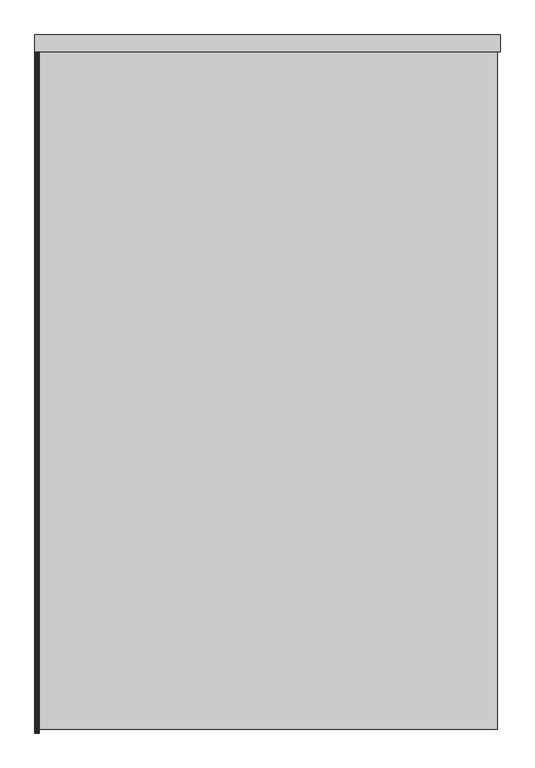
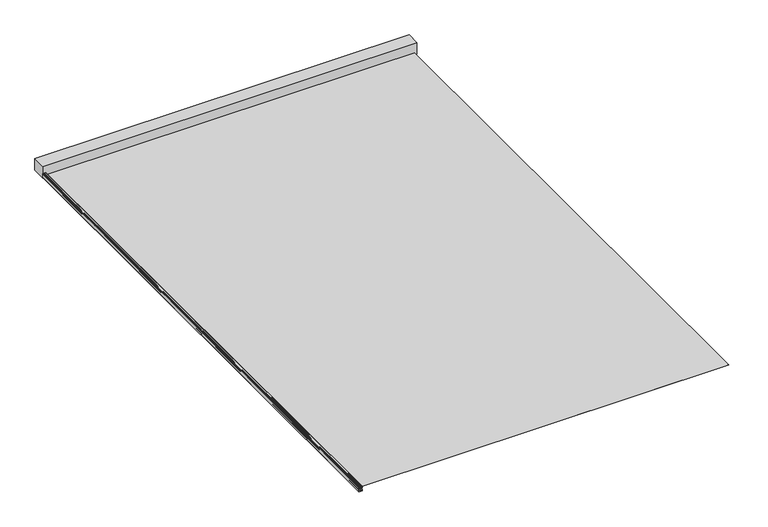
"""IFC4 building model written with IfcOpenShell, lengths in millimetres: proxy geometry, ZIP135 - 4 meter bred : ZIP135 - 4 meter bred."""

import ifcopenshell
import ifcopenshell.guid

model = None  # the IFC model being written
_history = None  # IfcOwnerHistory: only IFC2X3 demands one
_inside = {}  # id of a spatial element -> (the spatial element, [elements in it])
_under = {}  # id of a project, library or spatial element -> (it, [spatial elements below it])
_declared = {}  # id of a project -> (the project, [libraries it declares])
_typed = {}  # id of a type object -> (the type object, [elements of that type])
_made_of = {}  # id of a material, layer set ... -> (it, [elements and type objects made of it])


def new_model(schema):
    """Start an empty IFC model of exactly this schema.

    Asked for "IFC4X3", IfcOpenShell would pick the latest addendum, in which some entities
    have other attributes; the version numbers below select the first issue.
    IFC2X3 requires an IfcOwnerHistory on every rooted entity: one is made here for all.
    """
    global model, _history
    if schema == "IFC4X3":
        model = ifcopenshell.file(schema_version=(4, 3, 0, 0))
    else:
        model = ifcopenshell.file(schema=schema)
    _inside.clear()
    _under.clear()
    _declared.clear()
    _typed.clear()
    _made_of.clear()
    _history = None
    if model.schema == "IFC2X3":
        org = make("IfcOrganization", Name="unknown")
        user = make(
            "IfcPersonAndOrganization",
            ThePerson=make("IfcPerson", FamilyName="unknown"),
            TheOrganization=org,
        )
        app = make(
            "IfcApplication",
            ApplicationDeveloper=org,
            Version="unknown",
            ApplicationFullName="unknown",
            ApplicationIdentifier="unknown",
        )
        _history = make(
            "IfcOwnerHistory",
            OwningUser=user,
            OwningApplication=app,
            ChangeAction="ADDED",
            CreationDate=0,
        )
    return model


def make(cls, **values):
    """One entity of the class cls with the attributes given. An attribute that is None is left unset."""
    return model.create_entity(
        cls, **{name: value for name, value in values.items() if value is not None}
    )


def rooted(cls, **values):
    """An entity with a GlobalId (a new one), such as an element, a storey or a relation."""
    return make(cls, GlobalId=ifcopenshell.guid.new(), OwnerHistory=_history, **values)


def si_unit(unit_type, name, prefix=None):
    """IfcSIUnit, for example si_unit("LENGTHUNIT", "METRE", prefix="MILLI")."""
    return make("IfcSIUnit", UnitType=unit_type, Prefix=prefix, Name=name)


def assignment(units):
    """IfcUnitAssignment: the units of a project."""
    return None if units is None else make("IfcUnitAssignment", Units=units)


def point(xyz):
    """IfcCartesianPoint."""
    return None if xyz is None else make("IfcCartesianPoint", Coordinates=xyz)


def direction(xyz):
    """IfcDirection."""
    return None if xyz is None else make("IfcDirection", DirectionRatios=xyz)


def frame(location, z_axis=None, x_axis=None):
    """IfcAxis2Placement3D, a coordinate frame: its origin and axes. An axis left out is left unset."""
    return make(
        "IfcAxis2Placement3D",
        Location=point(location),
        Axis=direction(z_axis),
        RefDirection=direction(x_axis),
    )


def origin():
    """The frame at (0, 0, 0) with its axes left unset."""
    return frame((0.0, 0.0, 0.0))


def origin_with_axes():
    """The frame at (0, 0, 0) with the z axis (0, 0, 1) and the x axis (1, 0, 0) written out."""
    return frame((0.0, 0.0, 0.0), z_axis=(0.0, 0.0, 1.0), x_axis=(1.0, 0.0, 0.0))


def place(relative_to, where):
    """IfcLocalPlacement: puts the frame where relative to a parent placement (None: the world)."""
    return make(
        "IfcLocalPlacement", PlacementRelTo=relative_to, RelativePlacement=where
    )


def context(
    kind, dimensions, precision=None, world=None, true_north=None, identifier=None
):
    """IfcGeometricRepresentationContext, for example the 3D "Model" context."""
    return make(
        "IfcGeometricRepresentationContext",
        ContextIdentifier=identifier,
        ContextType=kind,
        CoordinateSpaceDimension=dimensions,
        Precision=precision,
        WorldCoordinateSystem=world,
        TrueNorth=true_north,
    )


def project(units=None, contexts=None):
    """IfcProject with its units and contexts."""
    return rooted(
        "IfcProject",
        Name="project",
        RepresentationContexts=contexts,
        UnitsInContext=assignment(units),
    )


def spatial(cls, under=None, at=None, **own):
    """A site, building, storey or space (cls), placed at a placement, below another one or the project."""
    s = rooted(cls, ObjectPlacement=at, **own)
    if under is not None:
        _under.setdefault(under.id(), (under, []))[1].append(s)
    return s


def polyline(points):
    """IfcPolyline through the points."""
    return make("IfcPolyline", Points=[point(p) for p in points])


def circle_curve(where, radius):
    """IfcCircle in the frame where."""
    return make("IfcCircle", Position=where, Radius=radius)


def outline(outer, holes=None, kind="AREA"):
    """IfcArbitraryClosedProfileDef: a profile drawn as a closed curve; with holes, ...WithVoids."""
    if holes is None:
        return make("IfcArbitraryClosedProfileDef", ProfileType=kind, OuterCurve=outer)
    return make(
        "IfcArbitraryProfileDefWithVoids",
        ProfileType=kind,
        OuterCurve=outer,
        InnerCurves=holes,
    )


def extrude(swept, where, along, depth):
    """IfcExtrudedAreaSolid: the profile swept, set in the frame where, extruded along a direction by depth."""
    return make(
        "IfcExtrudedAreaSolid",
        SweptArea=swept,
        Position=where,
        ExtrudedDirection=direction(along),
        Depth=depth,
    )


def shape(context_of_items, identifier, shape_type, items):
    """IfcShapeRepresentation: the items that make up one representation, for example the "Body"."""
    return make(
        "IfcShapeRepresentation",
        ContextOfItems=context_of_items,
        RepresentationIdentifier=identifier,
        RepresentationType=shape_type,
        Items=items,
    )


def source(mapping_origin, context_of_items, identifier, shape_type, items):
    """IfcRepresentationMap: a shape defined once, which mapped items show again and again."""
    return make(
        "IfcRepresentationMap",
        MappingOrigin=mapping_origin,
        MappedRepresentation=shape(context_of_items, identifier, shape_type, items),
    )


def transform(
    local_origin,
    x_axis=None,
    y_axis=None,
    z_axis=None,
    scale=None,
    scale2=None,
    scale3=None,
    uniform=True,
):
    """IfcCartesianTransformationOperator3D, or its non-uniform kind. x_axis, y_axis, z_axis: its Axis1, 2, 3."""
    if uniform:
        return make(
            "IfcCartesianTransformationOperator3D",
            Axis1=direction(x_axis),
            Axis2=direction(y_axis),
            LocalOrigin=point(local_origin),
            Scale=scale,
            Axis3=direction(z_axis),
        )
    return make(
        "IfcCartesianTransformationOperator3DnonUniform",
        Axis1=direction(x_axis),
        Axis2=direction(y_axis),
        LocalOrigin=point(local_origin),
        Scale=scale,
        Axis3=direction(z_axis),
        Scale2=scale2,
        Scale3=scale3,
    )


def mapped(mapping_source, mapping_target):
    """IfcMappedItem: shows the shape of a source again, moved by a transform."""
    return make(
        "IfcMappedItem", MappingSource=mapping_source, MappingTarget=mapping_target
    )


def made_of(thing, what):
    """Note that an element or type object is made of a material, layer set ...; save() writes the relation."""
    if what is not None:
        _made_of.setdefault(what.id(), (what, []))[1].append(thing)
    return thing


def element(
    cls,
    number,
    at=None,
    inside=None,
    cuts=None,
    type_object=None,
    material=None,
    context=None,
    identifier="Body",
    shape_type=None,
    held_by="IfcProductDefinitionShape",
    body=None,
    shapes=None,
    **own,
):
    """One element of the class cls, such as IfcWall. Its Tag is "e" and its number.

    at: its placement. inside: the storey or other place that contains it. cuts: it is an
    opening in that element (IfcRelVoidsElement). A single representation is given by context,
    identifier, shape_type and body (its items); several are given by shapes. held_by: the class
    of the entity that holds the representations. save() writes the other relations.
    """
    e = rooted(cls, Tag="e%d" % number, ObjectPlacement=at, **own)
    if body is not None:
        shapes = [shape(context, identifier, shape_type, body)]
    if shapes is not None:
        e.Representation = make(held_by, Representations=shapes)
    if inside is not None:
        _inside.setdefault(inside.id(), (inside, []))[1].append(e)
    if cuts is not None:
        rooted(
            "IfcRelVoidsElement", RelatingBuildingElement=cuts, RelatedOpeningElement=e
        )
    if type_object is not None:
        _typed.setdefault(type_object.id(), (type_object, []))[1].append(e)
    return made_of(e, material)


def aggregate(whole, parts):
    """IfcRelAggregates: a whole, such as a stair, and the parts it consists of."""
    return rooted("IfcRelAggregates", RelatingObject=whole, RelatedObjects=parts)


def save(model, path):
    """Write the relations noted so far, then the file.

    IfcRelAggregates (storeys below a building ...), IfcRelContainedInSpatialStructure (elements
    in a storey), IfcRelDefinesByType, IfcRelAssociatesMaterial and IfcRelDeclares: one each for
    every whole, place, type object, material and project.
    """
    for whole, parts in _under.values():
        aggregate(whole, parts)
    for where, things in _inside.values():
        rooted(
            "IfcRelContainedInSpatialStructure",
            RelatedElements=things,
            RelatingStructure=where,
        )
    for kind, things in _typed.values():
        rooted("IfcRelDefinesByType", RelatedObjects=things, RelatingType=kind)
    for what, things in _made_of.values():
        rooted("IfcRelAssociatesMaterial", RelatedObjects=things, RelatingMaterial=what)
    for by, libraries in _declared.values():
        rooted("IfcRelDeclares", RelatingContext=by, RelatedDefinitions=libraries)
    model.write(path)


def plane_surface(at):
    """IfcPlane: the flat surface through the origin of the frame at, square to its z axis."""
    return make("IfcPlane", Position=at)


def cylinder_surface(at, radius):
    """IfcCylindricalSurface: all points at the distance radius from the z axis of the frame at."""
    return make("IfcCylindricalSurface", Position=at, Radius=radius)


def revolved_surface(curve, axis_point, axis_direction):
    """IfcSurfaceOfRevolution: the curve turned about the line through axis_point along axis_direction."""
    return make(
        "IfcSurfaceOfRevolution",
        SweptCurve=make("IfcArbitraryOpenProfileDef", ProfileType="CURVE", Curve=curve),
        AxisPosition=make("IfcAxis1Placement", Location=point(axis_point), Axis=direction(axis_direction)),
    )


def advanced_brep(points, edges, surfaces, faces):
    """IfcAdvancedBrep: a solid bounded by faces that lie on surfaces and meet in shared edges.

    An edge is (start, end): straight between two places in points (the first is 0);
    or (start, end, curve); or (start, end, curve, False) where it runs against its curve.
    A face is (place in surfaces, loops), or (place, loops, False) where it looks against
    its surface's normal. A loop lists edges by number (the first is 1), with a minus sign
    where the edge is run from its end to its start. The first loop is the outer one.
    """
    corners = [point(p) for p in points]
    vertices = [make("IfcVertexPoint", VertexGeometry=c) for c in corners]
    made = []
    for start, end, *more in edges:
        made.append(
            make(
                "IfcEdgeCurve",
                EdgeStart=vertices[start],
                EdgeEnd=vertices[end],
                EdgeGeometry=more[0] if more else make("IfcPolyline", Points=[corners[start], corners[end]]),
                SameSense=more[1] if len(more) > 1 else True,
            )
        )
    hull = []
    for where, loops, *sense in faces:
        bounds = []
        for j, loop in enumerate(loops):
            ring = [make("IfcOrientedEdge", EdgeElement=made[abs(k) - 1], Orientation=k > 0) for k in loop]
            bounds.append(
                make(
                    "IfcFaceOuterBound" if j == 0 else "IfcFaceBound",
                    Bound=make("IfcEdgeLoop", EdgeList=ring),
                    Orientation=True,
                )
            )
        hull.append(make("IfcAdvancedFace", Bounds=bounds, FaceSurface=surfaces[where], SameSense=sense[0] if sense else True))
    return make("IfcAdvancedBrep", Outer=make("IfcClosedShell", CfsFaces=hull))


def generic_models_0fbfa0ec(model_context):
    return source(origin(), model_context, "Body", "SolidModel", [
        advanced_brep(
        [(-1972.6, 2.5, 31.4678714), (-1973.0769696, 2.5, 30.8178714), (-1972.6, 2.5, 30.1678714), (-1964.1023957, 2.5, 30.1678714), (-1963.1024072, 2.5, 31.1726628), (-1963.7529205, 2.5, 46.7031883), (-1965.6666067, 2.5, 48.5438844), (-1998.8706367, 2.5, 48.0351336), (-1999.8, 2.5, 47.0376315), (-1999.8, 2.5, 45.9678714), (-1998.5, 2.5, 45.3433716), (-1998.5, 2.5, 46.7579933), (-1980.6187174, 2.5, 47.4700414), (-1979.1649596, 2.5, 46.5616328), (-1978.4, 2.5, 46.9856568), (-1977.9003699, 2.5, 47.4844201), (-1971.3890908, 2.5, 47.418256), (-1968.8, 2.5, 46.5762226), (-1968.8, 2.5, 43.1361571), (-1968.8, 2.5, 39.6678714), (-1969.3, 2.5, 39.1678714), (-1978.9, 2.5, 39.1678714), (-1979.3769696, 2.5, 38.5178714), (-1978.9, 2.5, 37.8678714), (-1968.8, 2.5, 37.8678714), (-1968.8, 2.5, 31.9678714), (-1969.3, 2.5, 31.4678714), (-1972.6, 5857.0, 31.4678714), (-1969.3, 5857.0, 31.4678714), (-1968.8, 5857.0, 31.9678714), (-1968.8, 5857.0, 37.8678714), (-1978.9, 5857.0, 37.8678714), (-1979.3769696, 5857.0, 38.5178714), (-1978.9, 5857.0, 39.1678714), (-1969.3, 5857.0, 39.1678714), (-1968.8, 5857.0, 39.6678714), (-1968.8, 5857.0, 43.1361571), (-1968.8, 5857.0, 46.5762226), (-1971.3890908, 5857.0, 47.418256), (-1977.9003699, 5857.0, 47.4844201), (-1978.3999988, 5857.0, 46.9856568), (-1979.1649596, 5857.0, 46.5616328), (-1980.6187174, 5857.0, 47.4700414), (-1998.5, 5857.0, 46.7579933), (-1998.5, 5857.0, 45.3433716), (-1999.8, 5857.0, 45.9678714), (-1999.8, 5857.0, 47.0376315), (-1998.8706367, 5857.0, 48.0351336), (-1965.6666067, 5857.0, 48.5438844), (-1963.7529205, 5857.0, 46.7031883), (-1963.1024072, 5857.0, 31.1726628), (-1964.1023957, 5857.0, 30.1678714), (-1972.6, 5857.0, 30.1678714), (-1973.0769696, 5857.0, 30.8178714)],
        [
            (0, 1, circle_curve(frame((-1972.6, 2.5, 30.9678714), z_axis=(0.0, -1.0, 0.0), x_axis=(1.0, 0.0, 0.0)), 0.5)),
            (1, 2, circle_curve(frame((-1972.6, 2.5, 30.6678714), z_axis=(0.0, -1.0, 0.0), x_axis=(1.0, 0.0, 0.0)), 0.5)),
            (2, 3),
            (3, 4, circle_curve(frame((-1964.1023957, 2.5, 31.1678714), z_axis=(0.0, -1.0, 0.0), x_axis=(1.0, 0.0, 0.0)), 1.0)),
            (4, 5, circle_curve(frame((-2172.80625, 2.5, 30.1678714), z_axis=(0.0, -1.0, 0.0), x_axis=(1.0, 0.0, 0.0)), 209.70625)),
            (5, 6, circle_curve(frame((-1965.7466935, 2.5, 46.5454885), z_axis=(0.0, -1.0, 0.0), x_axis=(1.0, 0.0, 0.0)), 2.0)),
            (6, 7, circle_curve(frame((-1977.6796188, 2.5, -251.2154984), z_axis=(0.0, -1.0, 0.0), x_axis=(1.0, 0.0, 0.0)), 300.0)),
            (7, 8, circle_curve(frame((-1998.8, 2.5, 47.0376315), z_axis=(0.0, -1.0, 0.0), x_axis=(1.0, 0.0, 0.0)), 1.0)),
            (8, 9),
            (9, 10, circle_curve(frame((-1999.0, 2.5, 45.9678714), z_axis=(0.0, -1.0, 0.0), x_axis=(1.0, 0.0, 0.0)), 0.8)),
            (10, 11),
            (11, 12, circle_curve(frame((-1977.6796188, 2.5, -251.2154984), z_axis=(0.0, 1.0, 0.0), x_axis=(1.0, 0.0, 0.0)), 298.7)),
            (12, 13),
            (13, 14, circle_curve(frame((-1978.9, 2.5, 46.9856568), z_axis=(0.0, -1.0, 0.0), x_axis=(1.0, 0.0, 0.0)), 0.5)),
            (14, 15, circle_curve(frame((-1977.9000004, 2.5, 46.9844202), z_axis=(0.0, 1.0, 0.0), x_axis=(1.0, 0.0, 0.0)), 0.5)),
            (15, 16, circle_curve(frame((-1977.6796188, 2.5, -251.2154984), z_axis=(0.0, 1.0, 0.0), x_axis=(1.0, 0.0, 0.0)), 298.7)),
            (16, 17, circle_curve(frame((-1969.6, 2.5, 48.5178714), z_axis=(0.0, -1.0, 0.0), x_axis=(1.0, 0.0, 0.0)), 2.1)),
            (17, 18),
            (18, 19),
            (19, 20, circle_curve(frame((-1969.3, 2.5, 39.6678714), z_axis=(0.0, 1.0, 0.0), x_axis=(1.0, 0.0, 0.0)), 0.5)),
            (20, 21),
            (21, 22, circle_curve(frame((-1978.9, 2.5, 38.6678714), z_axis=(0.0, -1.0, 0.0), x_axis=(1.0, 0.0, 0.0)), 0.5)),
            (22, 23, circle_curve(frame((-1978.9, 2.5, 38.3678714), z_axis=(0.0, -1.0, 0.0), x_axis=(1.0, 0.0, 0.0)), 0.5)),
            (23, 24),
            (24, 25),
            (25, 26, circle_curve(frame((-1969.3, 2.5, 31.9678714), z_axis=(0.0, 1.0, 0.0), x_axis=(1.0, 0.0, 0.0)), 0.5)),
            (26, 0),
            (27, 28),
            (28, 29, circle_curve(frame((-1969.3, 5857.0, 31.9678714), z_axis=(0.0, -1.0, 0.0), x_axis=(1.0, 0.0, 0.0)), 0.5)),
            (29, 30),
            (30, 31),
            (31, 32, circle_curve(frame((-1978.9, 5857.0, 38.3678714), z_axis=(0.0, 1.0, 0.0), x_axis=(1.0, 0.0, 0.0)), 0.5)),
            (32, 33, circle_curve(frame((-1978.9, 5857.0, 38.6678714), z_axis=(0.0, 1.0, 0.0), x_axis=(1.0, 0.0, 0.0)), 0.5)),
            (33, 34),
            (34, 35, circle_curve(frame((-1969.3, 5857.0, 39.6678714), z_axis=(0.0, -1.0, 0.0), x_axis=(1.0, 0.0, 0.0)), 0.5)),
            (35, 36),
            (36, 37),
            (37, 38, circle_curve(frame((-1969.6, 5857.0, 48.5178714), z_axis=(0.0, 1.0, 0.0), x_axis=(1.0, 0.0, 0.0)), 2.1)),
            (38, 39, circle_curve(frame((-1977.6796188, 5857.0, -251.2154984), z_axis=(0.0, -1.0, 0.0), x_axis=(1.0, 0.0, 0.0)), 298.7)),
            (39, 40, circle_curve(frame((-1977.9000004, 5857.0, 46.9844202), z_axis=(0.0, -1.0, 0.0), x_axis=(1.0, 0.0, 0.0)), 0.5)),
            (40, 41, circle_curve(frame((-1978.9, 5857.0, 46.9856568), z_axis=(0.0, 1.0, 0.0), x_axis=(1.0, 0.0, 0.0)), 0.5)),
            (41, 42),
            (42, 43, circle_curve(frame((-1977.6796188, 5857.0, -251.2154984), z_axis=(0.0, -1.0, 0.0), x_axis=(1.0, 0.0, 0.0)), 298.7)),
            (43, 44),
            (44, 45, circle_curve(frame((-1999.0, 5857.0, 45.9678714), z_axis=(0.0, 1.0, 0.0), x_axis=(1.0, 0.0, 0.0)), 0.8)),
            (45, 46),
            (46, 47, circle_curve(frame((-1998.8, 5857.0, 47.0376315), z_axis=(0.0, 1.0, 0.0), x_axis=(1.0, 0.0, 0.0)), 1.0)),
            (47, 48, circle_curve(frame((-1977.6796188, 5857.0, -251.2154984), z_axis=(0.0, 1.0, 0.0), x_axis=(1.0, 0.0, 0.0)), 300.0)),
            (48, 49, circle_curve(frame((-1965.7466935, 5857.0, 46.5454885), z_axis=(0.0, 1.0, 0.0), x_axis=(1.0, 0.0, 0.0)), 2.0)),
            (49, 50, circle_curve(frame((-2172.80625, 5857.0, 30.1678714), z_axis=(0.0, 1.0, 0.0), x_axis=(1.0, 0.0, 0.0)), 209.70625)),
            (50, 51, circle_curve(frame((-1964.1023957, 5857.0, 31.1678714), z_axis=(0.0, 1.0, 0.0), x_axis=(1.0, 0.0, 0.0)), 1.0)),
            (51, 52),
            (52, 53, circle_curve(frame((-1972.6, 5857.0, 30.6678714), z_axis=(0.0, 1.0, 0.0), x_axis=(1.0, 0.0, 0.0)), 0.5)),
            (53, 27, circle_curve(frame((-1972.6, 5857.0, 30.9678714), z_axis=(0.0, 1.0, 0.0), x_axis=(1.0, 0.0, 0.0)), 0.5)),
            (26, 28),
            (27, 0),
            (25, 29),
            (24, 30),
            (23, 31),
            (22, 32),
            (21, 33),
            (20, 34),
            (19, 35),
            (18, 36),
            (17, 37),
            (16, 38),
            (15, 39),
            (14, 40),
            (13, 41),
            (12, 42),
            (11, 43),
            (10, 44),
            (9, 45),
            (8, 46),
            (7, 47),
            (6, 48),
            (5, 49),
            (4, 50),
            (3, 51),
            (2, 52),
            (1, 53),
        ],
        [
            plane_surface(frame((-1972.1, 2.5, 30.9678714), z_axis=(0.0, -1.0, 0.0), x_axis=(0.0, 0.0, 1.0))),
            plane_surface(frame((-1972.1, 5857.0, 30.9678714), z_axis=(0.0, 1.0, 0.0), x_axis=(0.0, 0.0, -1.0))),
            plane_surface(frame((-1969.3, 2.5, 31.4678714), z_axis=(0.0, 0.0, 1.0), x_axis=(0.0, 1.0, 0.0))),
            revolved_surface(polyline([(-1968.8, 5857.0, 31.9678714), (-1968.8, 2.5, 31.9678714)]), (-1969.3, 5857.0, 31.9678714), (0.0, 1.0, 0.0)),
            plane_surface(frame((-1968.8, 2.5, 37.8678714), z_axis=(-1.0, 0.0, 0.0), x_axis=(0.0, 1.0, 0.0))),
            plane_surface(frame((-1978.9, 2.5, 37.8678714), z_axis=(0.0, 0.0, -1.0), x_axis=(0.0, 1.0, 0.0))),
            cylinder_surface(frame((-1978.9, 5857.0, 38.3678714), z_axis=(0.0, -1.0, 0.0), x_axis=(1.0, 0.0, 0.0)), 0.5),
            cylinder_surface(frame((-1978.9, 5857.0, 38.6678714), z_axis=(0.0, -1.0, 0.0), x_axis=(1.0, 0.0, 0.0)), 0.5),
            plane_surface(frame((-1969.3, 2.5, 39.1678714), z_axis=(0.0, 0.0, 1.0), x_axis=(0.0, 1.0, 0.0))),
            revolved_surface(polyline([(-1968.8, 5857.0, 39.6678714), (-1968.8, 2.5, 39.6678714)]), (-1969.3, 5857.0, 39.6678714), (0.0, 1.0, 0.0)),
            plane_surface(frame((-1968.8, 2.5, 43.1361571), z_axis=(-1.0, 0.0, 0.0), x_axis=(0.0, 1.0, 0.0))),
            plane_surface(frame((-1968.8, 2.5, 46.5762226), z_axis=(-1.0, 0.0, 0.0), x_axis=(0.0, 1.0, 0.0))),
            cylinder_surface(frame((-1969.6, 5857.0, 48.5178714), z_axis=(0.0, -1.0, 0.0), x_axis=(1.0, 0.0, 0.0)), 2.1),
            revolved_surface(polyline([(-1678.9796188, 5857.0, -251.2154984), (-1678.9796188, 2.5, -251.2154984)]), (-1977.6796188, 5857.0, -251.2154984), (0.0, 1.0, 0.0)),
            revolved_surface(polyline([(-1977.4000004, 5857.0, 46.9844202), (-1977.4000004, 2.5, 46.9844202)]), (-1977.9000004, 5857.0, 46.9844202), (0.0, 1.0, 0.0)),
            cylinder_surface(frame((-1978.9, 5857.0, 46.9856568), z_axis=(0.0, -1.0, 0.0), x_axis=(1.0, 0.0, 0.0)), 0.5),
            plane_surface(frame((-1980.6187174, 2.5, 47.4700414), z_axis=(-0.529919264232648, 0.0, -0.848048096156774), x_axis=(0.0, 1.0, 0.0))),
            plane_surface(frame((-1998.5, 2.5, 45.3433716), z_axis=(1.0, 0.0, 0.0), x_axis=(0.0, 1.0, 0.0))),
            cylinder_surface(frame((-1999.0, 5857.0, 45.9678714), z_axis=(0.0, -1.0, 0.0), x_axis=(1.0, 0.0, 0.0)), 0.8),
            plane_surface(frame((-1999.8, 2.5, 47.0376315), z_axis=(-1.0, 0.0, 0.0), x_axis=(0.0, 1.0, 0.0))),
            cylinder_surface(frame((-1998.8, 5857.0, 47.0376315), z_axis=(0.0, -1.0, 0.0), x_axis=(1.0, 0.0, 0.0)), 1.0),
            cylinder_surface(frame((-1977.6796188, 5857.0, -251.2154984), z_axis=(0.0, -1.0, 0.0), x_axis=(1.0, 0.0, 0.0)), 300.0),
            cylinder_surface(frame((-1965.7466935, 5857.0, 46.5454885), z_axis=(0.0, -1.0, 0.0), x_axis=(1.0, 0.0, 0.0)), 2.0),
            cylinder_surface(frame((-2172.80625, 5857.0, 30.1678714), z_axis=(0.0, -1.0, 0.0), x_axis=(1.0, 0.0, 0.0)), 209.70625),
            cylinder_surface(frame((-1964.1023957, 5857.0, 31.1678714), z_axis=(0.0, -1.0, 0.0), x_axis=(1.0, 0.0, 0.0)), 1.0),
            plane_surface(frame((-1972.6, 2.5, 30.1678714), z_axis=(0.0, 0.0, -1.0), x_axis=(0.0, 1.0, 0.0))),
            cylinder_surface(frame((-1972.6, 5857.0, 30.6678714), z_axis=(0.0, -1.0, 0.0), x_axis=(1.0, 0.0, 0.0)), 0.5),
            cylinder_surface(frame((-1972.6, 5857.0, 30.9678714), z_axis=(0.0, -1.0, 0.0), x_axis=(1.0, 0.0, 0.0)), 0.5),
        ],
        [
            (0, [[1, 2, 3, 4, 5, 6, 7, 8, 9, 10, 11, 12, 13, 14, 15, 16, 17, 18, 19, 20, 21, 22, 23, 24, 25, 26, 27]]),
            (1, [[28, 29, 30, 31, 32, 33, 34, 35, 36, 37, 38, 39, 40, 41, 42, 43, 44, 45, 46, 47, 48, 49, 50, 51, 52, 53, 54]]),
            (2, [[-27, 55, -28, 56]]),
            (3, [[-26, 57, -29, -55]]),
            (4, [[-25, 58, -30, -57]]),
            (5, [[-24, 59, -31, -58]]),
            (6, [[-23, 60, -32, -59]]),
            (7, [[-22, 61, -33, -60]]),
            (8, [[-21, 62, -34, -61]]),
            (9, [[-20, 63, -35, -62]]),
            (10, [[-19, 64, -36, -63]]),
            (11, [[-18, 65, -37, -64]]),
            (12, [[-17, 66, -38, -65]]),
            (13, [[-16, 67, -39, -66]]),
            (14, [[-15, 68, -40, -67]]),
            (15, [[-14, 69, -41, -68]]),
            (16, [[-13, 70, -42, -69]]),
            (13, [[-12, 71, -43, -70]]),
            (17, [[-11, 72, -44, -71]]),
            (18, [[-10, 73, -45, -72]]),
            (19, [[-9, 74, -46, -73]]),
            (20, [[-8, 75, -47, -74]]),
            (21, [[-7, 76, -48, -75]]),
            (22, [[-6, 77, -49, -76]]),
            (23, [[-5, 78, -50, -77]]),
            (24, [[-4, 79, -51, -78]]),
            (25, [[-3, 80, -52, -79]]),
            (26, [[-2, 81, -53, -80]]),
            (27, [[-1, -56, -54, -81]]),
        ],
    ),
        advanced_brep(
        [(-1962.8295553, 2.5, 13.8913237), (-1963.8, 2.5, 14.65), (-1972.3, 2.5, 14.65), (-1972.7769696, 2.5, 14.0), (-1972.3, 2.5, 13.35), (-1969.0, 2.5, 13.35), (-1968.5, 2.5, 12.85), (-1968.5, 2.5, 8.2), (-1969.5, 2.5, 7.2), (-1983.8, 2.5, 7.2), (-1983.8, 2.5, 20.6143806), (-1983.8, 2.5, 36.6), (-1982.8, 2.5, 37.6), (-1980.7, 2.5, 37.6), (-1979.724617, 2.5, 38.3794826), (-1979.724617, 2.5, 39.3), (-1969.3, 2.5, 39.3), (-1968.8101021, 2.5, 40.5), (-1978.6, 2.5, 40.5), (-1979.6, 2.5, 41.5), (-1979.6, 2.5, 43.7), (-1978.6, 2.5, 44.7), (-1969.3, 2.5, 44.7), (-1968.8101021, 2.5, 45.9), (-1979.1, 2.5, 45.9), (-1981.077761, 2.5, 43.6025751), (-1981.803125, 2.5, 43.0671573), (-1984.8151163, 2.5, 42.5032419), (-1984.0348837, 2.5, 41.727847), (-1981.7801617, 2.5, 41.742787), (-1981.1730561, 2.5, 41.1478729), (-1981.1622989, 2.5, 40.0872673), (-1981.757213, 2.5, 39.4801617), (-1984.0348837, 2.5, 39.472153), (-1984.479504, 2.5, 38.5371628), (-1985.2, 2.5, 37.0), (-1985.2, 2.5, 29.1), (-1990.3934914, 2.5, 29.1), (-1998.1, 2.5, 29.1), (-1998.6, 2.5, 29.6), (-1998.6, 2.5, 42.35), (-1998.1, 2.5, 42.85), (-1996.5, 2.5, 42.85), (-1996.0, 2.5, 43.35), (-1996.0, 2.5, 44.35), (-1997.6, 2.5, 46.75), (-1997.6, 2.5, 45.05), (-2000.0, 2.5, 45.05), (-2000.0, 2.5, 2.0), (-1998.0, 2.5, 0.0), (-1991.3611718, 2.5, 0.0), (-1980.55, 2.5, 0.0), (-1980.55, 2.5, 1.5), (-1983.6, 2.5, 1.5), (-1984.1, 2.5, 2.0), (-1984.1, 2.5, 4.8), (-1983.1, 2.5, 5.8), (-1969.5, 2.5, 5.8), (-1968.5, 2.5, 4.8), (-1968.5, 2.5, 1.5), (-1972.05, 2.5, 1.5), (-1972.05, 2.5, 0.0), (-1965.3628876, 2.5, 0.0), (-1963.3764512, 2.5, 1.7674699), (-1962.8295553, 5857.0, 13.8913237), (-1963.3764512, 5857.0, 1.7674699), (-1965.3628876, 5857.0, 0.0), (-1972.05, 5857.0, 0.0), (-1972.05, 5857.0, 1.5), (-1968.5, 5857.0, 1.5), (-1968.5, 5857.0, 4.8), (-1969.5, 5857.0, 5.8), (-1983.1, 5857.0, 5.8), (-1984.1, 5857.0, 4.8), (-1984.1, 5857.0, 2.0), (-1983.6, 5857.0, 1.5), (-1980.55, 5857.0, 1.5), (-1980.55, 5857.0, 0.0), (-1991.3611718, 5857.0, 0.0), (-1998.0, 5857.0, 0.0), (-2000.0, 5857.0, 2.0), (-2000.0, 5857.0, 45.05), (-1997.6, 5857.0, 45.05), (-1997.6, 5857.0, 46.75), (-1996.0, 5857.0, 44.35), (-1996.0, 5857.0, 43.35), (-1996.5, 5857.0, 42.85), (-1998.1, 5857.0, 42.85), (-1998.6, 5857.0, 42.35), (-1998.6, 5857.0, 29.6), (-1998.1, 5857.0, 29.1), (-1990.3934914, 5857.0, 29.1), (-1985.2, 5857.0, 29.1), (-1985.2, 5857.0, 37.0), (-1984.479504, 5857.0, 38.5371628), (-1984.0348837, 5857.0, 39.472153), (-1981.757213, 5857.0, 39.4801617), (-1981.1622989, 5857.0, 40.0872673), (-1981.1730561, 5857.0, 41.1478729), (-1981.7801617, 5857.0, 41.742787), (-1984.0348837, 5857.0, 41.727847), (-1984.8151163, 5857.0, 42.5032419), (-1981.803125, 5857.0, 43.0671573), (-1981.1055598, 5857.0, 43.5983945), (-1979.1, 5857.0, 45.9), (-1968.8101021, 5857.0, 45.9), (-1969.3, 5857.0, 44.7), (-1978.6, 5857.0, 44.7), (-1979.6, 5857.0, 43.7), (-1979.6, 5857.0, 41.5), (-1978.6, 5857.0, 40.5), (-1968.8101021, 5857.0, 40.5), (-1969.3, 5857.0, 39.3), (-1979.724617, 5857.0, 39.3), (-1979.724617, 5857.0, 38.3794826), (-1980.7, 5857.0, 37.6), (-1982.8, 5857.0, 37.6), (-1983.8, 5857.0, 36.6), (-1983.8, 5857.0, 20.6143806), (-1983.8, 5857.0, 7.2), (-1969.5, 5857.0, 7.2), (-1968.5, 5857.0, 8.2), (-1968.5, 5857.0, 12.85), (-1969.0, 5857.0, 13.35), (-1972.3, 5857.0, 13.35), (-1972.7769696, 5857.0, 14.0), (-1972.3, 5857.0, 14.65), (-1963.8, 5857.0, 14.65)],
        [
            (0, 1, circle_curve(frame((-1963.8, 2.5, 13.65), z_axis=(0.0, -1.0, 0.0), x_axis=(1.0, 0.0, 0.0)), 1.0)),
            (1, 2),
            (2, 3, circle_curve(frame((-1972.3, 2.5, 14.15), z_axis=(0.0, -1.0, 0.0), x_axis=(1.0, 0.0, 0.0)), 0.5)),
            (3, 4, circle_curve(frame((-1972.3, 2.5, 13.85), z_axis=(0.0, -1.0, 0.0), x_axis=(1.0, 0.0, 0.0)), 0.5)),
            (4, 5),
            (5, 6, circle_curve(frame((-1969.0, 2.5, 12.85), z_axis=(0.0, 1.0, 0.0), x_axis=(1.0, 0.0, 0.0)), 0.5)),
            (6, 7),
            (7, 8, circle_curve(frame((-1969.5, 2.5, 8.2), z_axis=(0.0, 1.0, 0.0), x_axis=(1.0, 0.0, 0.0)), 1.0)),
            (8, 9),
            (9, 10),
            (10, 11),
            (11, 12, circle_curve(frame((-1982.8, 2.5, 36.6), z_axis=(0.0, 1.0, 0.0), x_axis=(1.0, 0.0, 0.0)), 1.0)),
            (12, 13),
            (13, 14, circle_curve(frame((-1980.7, 2.5, 38.6), z_axis=(0.0, -1.0, 0.0), x_axis=(1.0, 0.0, 0.0)), 1.0)),
            (14, 15),
            (15, 16),
            (16, 17, circle_curve(frame((-1969.3, 2.5, 40.0), z_axis=(0.0, -1.0, 0.0), x_axis=(1.0, 0.0, 0.0)), 0.7)),
            (17, 18),
            (18, 19, circle_curve(frame((-1978.6, 2.5, 41.5), z_axis=(0.0, 1.0, 0.0), x_axis=(1.0, 0.0, 0.0)), 1.0)),
            (19, 20),
            (20, 21, circle_curve(frame((-1978.6, 2.5, 43.7), z_axis=(0.0, 1.0, 0.0), x_axis=(1.0, 0.0, 0.0)), 1.0)),
            (21, 22),
            (22, 23, circle_curve(frame((-1969.3, 2.5, 45.4), z_axis=(0.0, -1.0, 0.0), x_axis=(1.0, 0.0, 0.0)), 0.7)),
            (23, 24),
            (24, 25, circle_curve(frame((-1979.1, 2.5, 43.9), z_axis=(0.0, -1.0, 0.0), x_axis=(1.0, 0.0, 0.0)), 2.0)),
            (25, 26, circle_curve(frame((-1981.6, 2.5, 43.5240383), z_axis=(0.0, 1.0, 0.0), x_axis=(1.0, 0.0, 0.0)), 0.5)),
            (26, 27, circle_curve(frame((-1982.9, 2.5, 40.6), z_axis=(0.0, -1.0, 0.0), x_axis=(1.0, 0.0, 0.0)), 2.7)),
            (27, 28, circle_curve(frame((-1984.425, 2.5, 42.1155445), z_axis=(0.0, -1.0, 0.0), x_axis=(1.0, 0.0, 0.0)), 0.55)),
            (28, 29, circle_curve(frame((-1982.9, 2.5, 40.6), z_axis=(0.0, 1.0, 0.0), x_axis=(1.0, 0.0, 0.0)), 1.6)),
            (29, 30),
            (30, 31, circle_curve(frame((-1981.6979803, 2.5, 40.6121915), z_axis=(0.0, 1.0, 0.0), x_axis=(1.0, 0.0, 0.0)), 0.75)),
            (31, 32),
            (32, 33, circle_curve(frame((-1982.9, 2.5, 40.6), z_axis=(0.0, 1.0, 0.0), x_axis=(1.0, 0.0, 0.0)), 1.6)),
            (33, 34, circle_curve(frame((-1984.425, 2.5, 39.0844555), z_axis=(0.0, -1.0, 0.0), x_axis=(1.0, 0.0, 0.0)), 0.55)),
            (34, 35, circle_curve(frame((-1983.2, 2.5, 37.0), z_axis=(0.0, -1.0, 0.0), x_axis=(1.0, 0.0, 0.0)), 2.0)),
            (35, 36),
            (36, 37),
            (37, 38),
            (38, 39, circle_curve(frame((-1998.1, 2.5, 29.6), z_axis=(0.0, 1.0, 0.0), x_axis=(1.0, 0.0, 0.0)), 0.5)),
            (39, 40),
            (40, 41, circle_curve(frame((-1998.1, 2.5, 42.35), z_axis=(0.0, 1.0, 0.0), x_axis=(1.0, 0.0, 0.0)), 0.5)),
            (41, 42),
            (42, 43, circle_curve(frame((-1996.5, 2.5, 43.35), z_axis=(0.0, -1.0, 0.0), x_axis=(1.0, 0.0, 0.0)), 0.5)),
            (43, 44),
            (44, 45),
            (45, 46),
            (46, 47, circle_curve(frame((-1998.8, 2.5, 45.55), z_axis=(0.0, 1.0, 0.0), x_axis=(1.0, 0.0, 0.0)), 1.3)),
            (47, 48),
            (48, 49, circle_curve(frame((-1998.0, 2.5, 2.0), z_axis=(0.0, -1.0, 0.0), x_axis=(1.0, 0.0, 0.0)), 2.0)),
            (49, 50),
            (50, 51),
            (51, 52),
            (52, 53),
            (53, 54, circle_curve(frame((-1983.6, 2.5, 2.0), z_axis=(0.0, 1.0, 0.0), x_axis=(1.0, 0.0, 0.0)), 0.5)),
            (54, 55),
            (55, 56, circle_curve(frame((-1983.1, 2.5, 4.8), z_axis=(0.0, 1.0, 0.0), x_axis=(1.0, 0.0, 0.0)), 1.0)),
            (56, 57),
            (57, 58, circle_curve(frame((-1969.5, 2.5, 4.8), z_axis=(0.0, 1.0, 0.0), x_axis=(1.0, 0.0, 0.0)), 1.0)),
            (58, 59),
            (59, 60),
            (60, 61),
            (61, 62),
            (62, 63, circle_curve(frame((-1965.3628876, 2.5, 2.0), z_axis=(0.0, -1.0, 0.0), x_axis=(1.0, 0.0, 0.0)), 2.0)),
            (63, 0, circle_curve(frame((-2047.8, 2.5, 11.65), z_axis=(0.0, -1.0, 0.0), x_axis=(1.0, 0.0, 0.0)), 85.0)),
            (64, 65, circle_curve(frame((-2047.8, 5857.0, 11.65), z_axis=(0.0, 1.0, 0.0), x_axis=(1.0, 0.0, 0.0)), 85.0)),
            (65, 66, circle_curve(frame((-1965.3628876, 5857.0, 2.0), z_axis=(0.0, 1.0, 0.0), x_axis=(1.0, 0.0, 0.0)), 2.0)),
            (66, 67),
            (67, 68),
            (68, 69),
            (69, 70),
            (70, 71, circle_curve(frame((-1969.5, 5857.0, 4.8), z_axis=(0.0, -1.0, 0.0), x_axis=(1.0, 0.0, 0.0)), 1.0)),
            (71, 72),
            (72, 73, circle_curve(frame((-1983.1, 5857.0, 4.8), z_axis=(0.0, -1.0, 0.0), x_axis=(1.0, 0.0, 0.0)), 1.0)),
            (73, 74),
            (74, 75, circle_curve(frame((-1983.6, 5857.0, 2.0), z_axis=(0.0, -1.0, 0.0), x_axis=(1.0, 0.0, 0.0)), 0.5)),
            (75, 76),
            (76, 77),
            (77, 78),
            (78, 79),
            (79, 80, circle_curve(frame((-1998.0, 5857.0, 2.0), z_axis=(0.0, 1.0, 0.0), x_axis=(1.0, 0.0, 0.0)), 2.0)),
            (80, 81),
            (81, 82, circle_curve(frame((-1998.8, 5857.0, 45.55), z_axis=(0.0, -1.0, 0.0), x_axis=(1.0, 0.0, 0.0)), 1.3)),
            (82, 83),
            (83, 84),
            (84, 85),
            (85, 86, circle_curve(frame((-1996.5, 5857.0, 43.35), z_axis=(0.0, 1.0, 0.0), x_axis=(1.0, 0.0, 0.0)), 0.5)),
            (86, 87),
            (87, 88, circle_curve(frame((-1998.1, 5857.0, 42.35), z_axis=(0.0, -1.0, 0.0), x_axis=(1.0, 0.0, 0.0)), 0.5)),
            (88, 89),
            (89, 90, circle_curve(frame((-1998.1, 5857.0, 29.6), z_axis=(0.0, -1.0, 0.0), x_axis=(1.0, 0.0, 0.0)), 0.5)),
            (90, 91),
            (91, 92),
            (92, 93),
            (93, 94, circle_curve(frame((-1983.2, 5857.0, 37.0), z_axis=(0.0, 1.0, 0.0), x_axis=(1.0, 0.0, 0.0)), 2.0)),
            (94, 95, circle_curve(frame((-1984.425, 5857.0, 39.0844555), z_axis=(0.0, 1.0, 0.0), x_axis=(1.0, 0.0, 0.0)), 0.55)),
            (95, 96, circle_curve(frame((-1982.9, 5857.0, 40.6), z_axis=(0.0, -1.0, 0.0), x_axis=(1.0, 0.0, 0.0)), 1.6)),
            (96, 97),
            (97, 98, circle_curve(frame((-1981.6979803, 5857.0, 40.6121915), z_axis=(0.0, -1.0, 0.0), x_axis=(1.0, 0.0, 0.0)), 0.75)),
            (98, 99),
            (99, 100, circle_curve(frame((-1982.9, 5857.0, 40.6), z_axis=(0.0, -1.0, 0.0), x_axis=(1.0, 0.0, 0.0)), 1.6)),
            (100, 101, circle_curve(frame((-1984.425, 5857.0, 42.1155445), z_axis=(0.0, 1.0, 0.0), x_axis=(1.0, 0.0, 0.0)), 0.55)),
            (101, 102, circle_curve(frame((-1982.9, 5857.0, 40.6), z_axis=(0.0, 1.0, 0.0), x_axis=(1.0, 0.0, 0.0)), 2.7)),
            (102, 103, circle_curve(frame((-1981.6, 5857.0, 43.5240383), z_axis=(0.0, -1.0, 0.0), x_axis=(1.0, 0.0, 0.0)), 0.5)),
            (103, 104, circle_curve(frame((-1979.1, 5857.0, 43.9), z_axis=(0.0, 1.0, 0.0), x_axis=(1.0, 0.0, 0.0)), 2.0)),
            (104, 105),
            (105, 106, circle_curve(frame((-1969.3, 5857.0, 45.4), z_axis=(0.0, 1.0, 0.0), x_axis=(1.0, 0.0, 0.0)), 0.7)),
            (106, 107),
            (107, 108, circle_curve(frame((-1978.6, 5857.0, 43.7), z_axis=(0.0, -1.0, 0.0), x_axis=(1.0, 0.0, 0.0)), 1.0)),
            (108, 109),
            (109, 110, circle_curve(frame((-1978.6, 5857.0, 41.5), z_axis=(0.0, -1.0, 0.0), x_axis=(1.0, 0.0, 0.0)), 1.0)),
            (110, 111),
            (111, 112, circle_curve(frame((-1969.3, 5857.0, 40.0), z_axis=(0.0, 1.0, 0.0), x_axis=(1.0, 0.0, 0.0)), 0.7)),
            (112, 113),
            (113, 114),
            (114, 115, circle_curve(frame((-1980.7, 5857.0, 38.6), z_axis=(0.0, 1.0, 0.0), x_axis=(1.0, 0.0, 0.0)), 1.0)),
            (115, 116),
            (116, 117, circle_curve(frame((-1982.8, 5857.0, 36.6), z_axis=(0.0, -1.0, 0.0), x_axis=(1.0, 0.0, 0.0)), 1.0)),
            (117, 118),
            (118, 119),
            (119, 120),
            (120, 121, circle_curve(frame((-1969.5, 5857.0, 8.2), z_axis=(0.0, -1.0, 0.0), x_axis=(1.0, 0.0, 0.0)), 1.0)),
            (121, 122),
            (122, 123, circle_curve(frame((-1969.0, 5857.0, 12.85), z_axis=(0.0, -1.0, 0.0), x_axis=(1.0, 0.0, 0.0)), 0.5)),
            (123, 124),
            (124, 125, circle_curve(frame((-1972.3, 5857.0, 13.85), z_axis=(0.0, 1.0, 0.0), x_axis=(1.0, 0.0, 0.0)), 0.5)),
            (125, 126, circle_curve(frame((-1972.3, 5857.0, 14.15), z_axis=(0.0, 1.0, 0.0), x_axis=(1.0, 0.0, 0.0)), 0.5)),
            (126, 127),
            (127, 64, circle_curve(frame((-1963.8, 5857.0, 13.65), z_axis=(0.0, 1.0, 0.0), x_axis=(1.0, 0.0, 0.0)), 1.0)),
            (63, 65),
            (64, 0),
            (62, 66),
            (61, 67),
            (60, 68),
            (59, 69),
            (58, 70),
            (57, 71),
            (56, 72),
            (55, 73),
            (54, 74),
            (53, 75),
            (52, 76),
            (51, 77),
            (50, 78),
            (49, 79),
            (48, 80),
            (47, 81),
            (46, 82),
            (45, 83),
            (44, 84),
            (43, 85),
            (42, 86),
            (41, 87),
            (40, 88),
            (39, 89),
            (38, 90),
            (37, 91),
            (36, 92),
            (35, 93),
            (34, 94),
            (33, 95),
            (32, 96),
            (31, 97),
            (30, 98),
            (29, 99),
            (28, 100),
            (27, 101),
            (26, 102),
            (25, 103),
            (24, 104),
            (23, 105),
            (22, 106),
            (21, 107),
            (20, 108),
            (19, 109),
            (18, 110),
            (17, 111),
            (16, 112),
            (15, 113),
            (14, 114),
            (13, 115),
            (12, 116),
            (11, 117),
            (10, 118),
            (9, 119),
            (8, 120),
            (7, 121),
            (6, 122),
            (5, 123),
            (4, 124),
            (3, 125),
            (2, 126),
            (1, 127),
        ],
        [
            plane_surface(frame((-1962.8, 2.5, 13.65), z_axis=(0.0, -1.0, 0.0), x_axis=(0.0, 0.0, 1.0))),
            plane_surface(frame((-1962.8, 5857.0, 13.65), z_axis=(0.0, 1.0, 0.0), x_axis=(0.0, 0.0, -1.0))),
            cylinder_surface(frame((-2047.8, 5857.0, 11.65), z_axis=(0.0, -1.0, 0.0), x_axis=(1.0, 0.0, 0.0)), 85.0),
            cylinder_surface(frame((-1965.3628876, 5857.0, 2.0), z_axis=(0.0, -1.0, 0.0), x_axis=(1.0, 0.0, 0.0)), 2.0),
            plane_surface(frame((-1972.05, 2.5, 0.0), z_axis=(0.0, 0.0, -1.0), x_axis=(0.0, 1.0, 0.0))),
            plane_surface(frame((-1972.05, 2.5, 1.5), z_axis=(-1.0, 0.0, 0.0), x_axis=(0.0, 1.0, 0.0))),
            plane_surface(frame((-1968.5, 2.5, 1.5), z_axis=(0.0, 0.0, 1.0), x_axis=(0.0, 1.0, 0.0))),
            plane_surface(frame((-1968.5, 2.5, 4.8), z_axis=(-1.0, 0.0, 0.0), x_axis=(0.0, 1.0, 0.0))),
            revolved_surface(polyline([(-1968.5, 5857.0, 4.8), (-1968.5, 2.5, 4.8)]), (-1969.5, 5857.0, 4.8), (0.0, 1.0, 0.0)),
            plane_surface(frame((-1983.1, 2.5, 5.8), z_axis=(0.0, 0.0, -1.0), x_axis=(0.0, 1.0, 0.0))),
            revolved_surface(polyline([(-1982.1, 5857.0, 4.8), (-1982.1, 2.5, 4.8)]), (-1983.1, 5857.0, 4.8), (0.0, 1.0, 0.0)),
            plane_surface(frame((-1984.1, 2.5, 2.0), z_axis=(1.0, 0.0, 0.0), x_axis=(0.0, 1.0, 0.0))),
            revolved_surface(polyline([(-1983.1, 5857.0, 2.0), (-1983.1, 2.5, 2.0)]), (-1983.6, 5857.0, 2.0), (0.0, 1.0, 0.0)),
            plane_surface(frame((-1980.55, 2.5, 1.5), z_axis=(0.0, 0.0, 1.0), x_axis=(0.0, 1.0, 0.0))),
            plane_surface(frame((-1980.55, 2.5, 0.0), z_axis=(1.0, 0.0, 0.0), x_axis=(0.0, 1.0, 0.0))),
            plane_surface(frame((-1991.3611718, 2.5, 0.0), z_axis=(0.0, 0.0, -1.0), x_axis=(0.0, 1.0, 0.0))),
            plane_surface(frame((-1998.0, 2.5, 0.0), z_axis=(0.0, 0.0, -1.0), x_axis=(0.0, 1.0, 0.0))),
            cylinder_surface(frame((-1998.0, 5857.0, 2.0), z_axis=(0.0, -1.0, 0.0), x_axis=(1.0, 0.0, 0.0)), 2.0),
            plane_surface(frame((-2000.0, 2.5, 45.05), z_axis=(-1.0, 0.0, 0.0), x_axis=(0.0, 1.0, 0.0))),
            revolved_surface(polyline([(-1997.5, 5857.0, 45.55), (-1997.5, 2.5, 45.55)]), (-1998.8, 5857.0, 45.55), (0.0, 1.0, 0.0)),
            plane_surface(frame((-1997.6, 2.5, 46.75), z_axis=(-1.0, 0.0, 0.0), x_axis=(0.0, 1.0, 0.0))),
            plane_surface(frame((-1996.0, 2.5, 44.35), z_axis=(0.8320502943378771, 0.0, 0.5547001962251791), x_axis=(0.0, 1.0, 0.0))),
            plane_surface(frame((-1996.0, 2.5, 43.35), z_axis=(1.0, 0.0, 0.0), x_axis=(0.0, 1.0, 0.0))),
            cylinder_surface(frame((-1996.5, 5857.0, 43.35), z_axis=(0.0, -1.0, 0.0), x_axis=(1.0, 0.0, 0.0)), 0.5),
            plane_surface(frame((-1998.1, 2.5, 42.85), z_axis=(0.0, 0.0, -1.0), x_axis=(0.0, 1.0, 0.0))),
            revolved_surface(polyline([(-1997.6, 5857.0, 42.35), (-1997.6, 2.5, 42.35)]), (-1998.1, 5857.0, 42.35), (0.0, 1.0, 0.0)),
            plane_surface(frame((-1998.6, 2.5, 29.6), z_axis=(1.0, 0.0, 0.0), x_axis=(0.0, 1.0, 0.0))),
            revolved_surface(polyline([(-1997.6, 5857.0, 29.6), (-1997.6, 2.5, 29.6)]), (-1998.1, 5857.0, 29.6), (0.0, 1.0, 0.0)),
            plane_surface(frame((-1990.3934914, 2.5, 29.1), z_axis=(0.0, 0.0, 1.0), x_axis=(0.0, 1.0, 0.0))),
            plane_surface(frame((-1985.2, 2.5, 29.1), z_axis=(0.0, 0.0, 1.0), x_axis=(0.0, 1.0, 0.0))),
            plane_surface(frame((-1985.2, 2.5, 37.0), z_axis=(-1.0, 0.0, 0.0), x_axis=(0.0, 1.0, 0.0))),
            cylinder_surface(frame((-1983.2, 5857.0, 37.0), z_axis=(0.0, -1.0, 0.0), x_axis=(1.0, 0.0, 0.0)), 2.0),
            cylinder_surface(frame((-1984.425, 5857.0, 39.0844555), z_axis=(0.0, -1.0, 0.0), x_axis=(1.0, 0.0, 0.0)), 0.55),
            revolved_surface(polyline([(-1981.3000000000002, 5857.0, 40.6), (-1981.3000000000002, 2.5, 40.6)]), (-1982.9, 5857.0, 40.6), (0.0, 1.0, 0.0)),
            plane_surface(frame((-1981.1622989, 2.5, 40.0872673), z_axis=(-0.7142418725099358, 0.0, 0.6998989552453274), x_axis=(0.0, 1.0, 0.0))),
            revolved_surface(polyline([(-1980.9479803, 5857.0, 40.6121915), (-1980.9479803, 2.5, 40.6121915)]), (-1981.6979803, 5857.0, 40.6121915), (0.0, 1.0, 0.0)),
            plane_surface(frame((-1981.7801617, 2.5, 41.742787), z_axis=(-0.6998989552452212, 0.0, -0.7142418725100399), x_axis=(0.0, 1.0, 0.0))),
            cylinder_surface(frame((-1984.425, 5857.0, 42.1155445), z_axis=(0.0, -1.0, 0.0), x_axis=(1.0, 0.0, 0.0)), 0.55),
            cylinder_surface(frame((-1982.9, 5857.0, 40.6), z_axis=(0.0, -1.0, 0.0), x_axis=(1.0, 0.0, 0.0)), 2.7),
            revolved_surface(polyline([(-1981.1, 5857.0, 43.5240383), (-1981.1, 2.5, 43.5240383)]), (-1981.6, 5857.0, 43.5240383), (0.0, 1.0, 0.0)),
            cylinder_surface(frame((-1979.1, 5857.0, 43.9), z_axis=(0.0, -1.0, 0.0), x_axis=(1.0, 0.0, 0.0)), 2.0),
            plane_surface(frame((-1968.8101021, 2.5, 45.9), z_axis=(0.0, 0.0, 1.0), x_axis=(0.0, 1.0, 0.0))),
            cylinder_surface(frame((-1969.3, 5857.0, 45.4), z_axis=(0.0, -1.0, 0.0), x_axis=(1.0, 0.0, 0.0)), 0.7),
            plane_surface(frame((-1978.6, 2.5, 44.7), z_axis=(0.0, 0.0, -1.0), x_axis=(0.0, 1.0, 0.0))),
            revolved_surface(polyline([(-1977.6, 5857.0, 43.7), (-1977.6, 2.5, 43.7)]), (-1978.6, 5857.0, 43.7), (0.0, 1.0, 0.0)),
            plane_surface(frame((-1979.6, 2.5, 41.5), z_axis=(1.0, 0.0, 0.0), x_axis=(0.0, 1.0, 0.0))),
            revolved_surface(polyline([(-1977.6, 5857.0, 41.5), (-1977.6, 2.5, 41.5)]), (-1978.6, 5857.0, 41.5), (0.0, 1.0, 0.0)),
            plane_surface(frame((-1968.8101021, 2.5, 40.5), z_axis=(0.0, 0.0, 1.0), x_axis=(0.0, 1.0, 0.0))),
            cylinder_surface(frame((-1969.3, 5857.0, 40.0), z_axis=(0.0, -1.0, 0.0), x_axis=(1.0, 0.0, 0.0)), 0.7),
            plane_surface(frame((-1979.724617, 2.5, 39.3), z_axis=(0.0, 0.0, -1.0), x_axis=(0.0, 1.0, 0.0))),
            plane_surface(frame((-1979.724617, 2.5, 38.3794826), z_axis=(1.0, 0.0, 0.0), x_axis=(0.0, 1.0, 0.0))),
            cylinder_surface(frame((-1980.7, 5857.0, 38.6), z_axis=(0.0, -1.0, 0.0), x_axis=(1.0, 0.0, 0.0)), 1.0),
            plane_surface(frame((-1982.8, 2.5, 37.6), z_axis=(0.0, 0.0, -1.0), x_axis=(0.0, 1.0, 0.0))),
            revolved_surface(polyline([(-1981.8, 5857.0, 36.6), (-1981.8, 2.5, 36.6)]), (-1982.8, 5857.0, 36.6), (0.0, 1.0, 0.0)),
            plane_surface(frame((-1983.8, 2.5, 20.6143806), z_axis=(1.0, 0.0, 0.0), x_axis=(0.0, 1.0, 0.0))),
            plane_surface(frame((-1983.8, 2.5, 7.2), z_axis=(1.0, 0.0, 0.0), x_axis=(0.0, 1.0, 0.0))),
            plane_surface(frame((-1969.5, 2.5, 7.2), z_axis=(0.0, 0.0, 1.0), x_axis=(0.0, 1.0, 0.0))),
            revolved_surface(polyline([(-1968.5, 5857.0, 8.2), (-1968.5, 2.5, 8.2)]), (-1969.5, 5857.0, 8.2), (0.0, 1.0, 0.0)),
            plane_surface(frame((-1968.5, 2.5, 12.85), z_axis=(-1.0, 0.0, 0.0), x_axis=(0.0, 1.0, 0.0))),
            revolved_surface(polyline([(-1968.5, 5857.0, 12.85), (-1968.5, 2.5, 12.85)]), (-1969.0, 5857.0, 12.85), (0.0, 1.0, 0.0)),
            plane_surface(frame((-1972.3, 2.5, 13.35), z_axis=(0.0, 0.0, -1.0), x_axis=(0.0, 1.0, 0.0))),
            cylinder_surface(frame((-1972.3, 5857.0, 13.85), z_axis=(0.0, -1.0, 0.0), x_axis=(1.0, 0.0, 0.0)), 0.5),
            cylinder_surface(frame((-1972.3, 5857.0, 14.15), z_axis=(0.0, -1.0, 0.0), x_axis=(1.0, 0.0, 0.0)), 0.5),
            plane_surface(frame((-1963.8, 2.5, 14.65), z_axis=(0.0, 0.0, 1.0), x_axis=(0.0, 1.0, 0.0))),
            cylinder_surface(frame((-1963.8, 5857.0, 13.65), z_axis=(0.0, -1.0, 0.0), x_axis=(1.0, 0.0, 0.0)), 1.0),
        ],
        [
            (0, [[1, 2, 3, 4, 5, 6, 7, 8, 9, 10, 11, 12, 13, 14, 15, 16, 17, 18, 19, 20, 21, 22, 23, 24, 25, 26, 27, 28, 29, 30, 31, 32, 33, 34, 35, 36, 37, 38, 39, 40, 41, 42, 43, 44, 45, 46, 47, 48, 49, 50, 51, 52, 53, 54, 55, 56, 57, 58, 59, 60, 61, 62, 63, 64]]),
            (1, [[65, 66, 67, 68, 69, 70, 71, 72, 73, 74, 75, 76, 77, 78, 79, 80, 81, 82, 83, 84, 85, 86, 87, 88, 89, 90, 91, 92, 93, 94, 95, 96, 97, 98, 99, 100, 101, 102, 103, 104, 105, 106, 107, 108, 109, 110, 111, 112, 113, 114, 115, 116, 117, 118, 119, 120, 121, 122, 123, 124, 125, 126, 127, 128]]),
            (2, [[-64, 129, -65, 130]]),
            (3, [[-63, 131, -66, -129]]),
            (4, [[-62, 132, -67, -131]]),
            (5, [[-61, 133, -68, -132]]),
            (6, [[-60, 134, -69, -133]]),
            (7, [[-59, 135, -70, -134]]),
            (8, [[-58, 136, -71, -135]]),
            (9, [[-57, 137, -72, -136]]),
            (10, [[-56, 138, -73, -137]]),
            (11, [[-55, 139, -74, -138]]),
            (12, [[-54, 140, -75, -139]]),
            (13, [[-53, 141, -76, -140]]),
            (14, [[-52, 142, -77, -141]]),
            (15, [[-51, 143, -78, -142]]),
            (16, [[-50, 144, -79, -143]]),
            (17, [[-49, 145, -80, -144]]),
            (18, [[-48, 146, -81, -145]]),
            (19, [[-47, 147, -82, -146]]),
            (20, [[-46, 148, -83, -147]]),
            (21, [[-45, 149, -84, -148]]),
            (22, [[-44, 150, -85, -149]]),
            (23, [[-43, 151, -86, -150]]),
            (24, [[-42, 152, -87, -151]]),
            (25, [[-41, 153, -88, -152]]),
            (26, [[-40, 154, -89, -153]]),
            (27, [[-39, 155, -90, -154]]),
            (28, [[-38, 156, -91, -155]]),
            (29, [[-37, 157, -92, -156]]),
            (30, [[-36, 158, -93, -157]]),
            (31, [[-35, 159, -94, -158]]),
            (32, [[-34, 160, -95, -159]]),
            (33, [[-33, 161, -96, -160]]),
            (34, [[-32, 162, -97, -161]]),
            (35, [[-31, 163, -98, -162]]),
            (36, [[-30, 164, -99, -163]]),
            (33, [[-29, 165, -100, -164]]),
            (37, [[-28, 166, -101, -165]]),
            (38, [[-27, 167, -102, -166]]),
            (39, [[-26, 168, -103, -167]]),
            (40, [[-25, 169, -104, -168]]),
            (41, [[-24, 170, -105, -169]]),
            (42, [[-23, 171, -106, -170]]),
            (43, [[-22, 172, -107, -171]]),
            (44, [[-21, 173, -108, -172]]),
            (45, [[-20, 174, -109, -173]]),
            (46, [[-19, 175, -110, -174]]),
            (47, [[-18, 176, -111, -175]]),
            (48, [[-17, 177, -112, -176]]),
            (49, [[-16, 178, -113, -177]]),
            (50, [[-15, 179, -114, -178]]),
            (51, [[-14, 180, -115, -179]]),
            (52, [[-13, 181, -116, -180]]),
            (53, [[-12, 182, -117, -181]]),
            (54, [[-11, 183, -118, -182]]),
            (55, [[-10, 184, -119, -183]]),
            (56, [[-9, 185, -120, -184]]),
            (57, [[-8, 186, -121, -185]]),
            (58, [[-7, 187, -122, -186]]),
            (59, [[-6, 188, -123, -187]]),
            (60, [[-5, 189, -124, -188]]),
            (61, [[-4, 190, -125, -189]]),
            (62, [[-3, 191, -126, -190]]),
            (63, [[-2, 192, -127, -191]]),
            (64, [[-1, -130, -128, -192]]),
        ],
    ),
        extrude(outline(polyline([(2000.0, 6000.0), (2000.0, 5857.0), (-2000.0, 5857.0), (-2000.0, 6000.0), (2000.0, 6000.0)])), origin_with_axes(), (0.0, 0.0, 1.0), 130.0),
        extrude(outline(polyline([(1973.779005, 36.0), (-1973.9034289, 36.0), (-1973.9034289, 5857.0), (1973.779005, 5857.0), (1973.779005, 36.0)])), frame((0.0, 0.0, 21.8235993), z_axis=(0.0, 0.0, 1.0), x_axis=(1.0, 0.0, 0.0)), (0.0, 0.0, 1.0), 1.0),
    ])


if __name__ == "__main__":
    model = new_model("IFC4")
    model_context = context("Model", 3, world=origin())
    ifc_project = project(units=[si_unit("LENGTHUNIT", "METRE", prefix="MILLI")], contexts=[model_context])
    site = spatial("IfcSite", under=ifc_project)
    building = spatial("IfcBuilding", under=site)
    placement = place(None, origin())
    generic_models_shape = generic_models_0fbfa0ec(model_context)
    element("IfcBuildingElementProxy", 1, Name="ZIP135 - 4 meter bred : ZIP135 - 4 meter bred", ObjectType="ZIP135 - 4 meter bred : ZIP135 - 4 meter bred", at=placement, inside=building, context=model_context, shape_type="MappedRepresentation", body=[
        mapped(generic_models_shape, transform((0.0, 0.0, 0.0), x_axis=(1.0, 0.0, 0.0), y_axis=(0.0, 1.0, 0.0), z_axis=(0.0, 0.0, 1.0))),
    ])
    save(model, "model.ifc")
